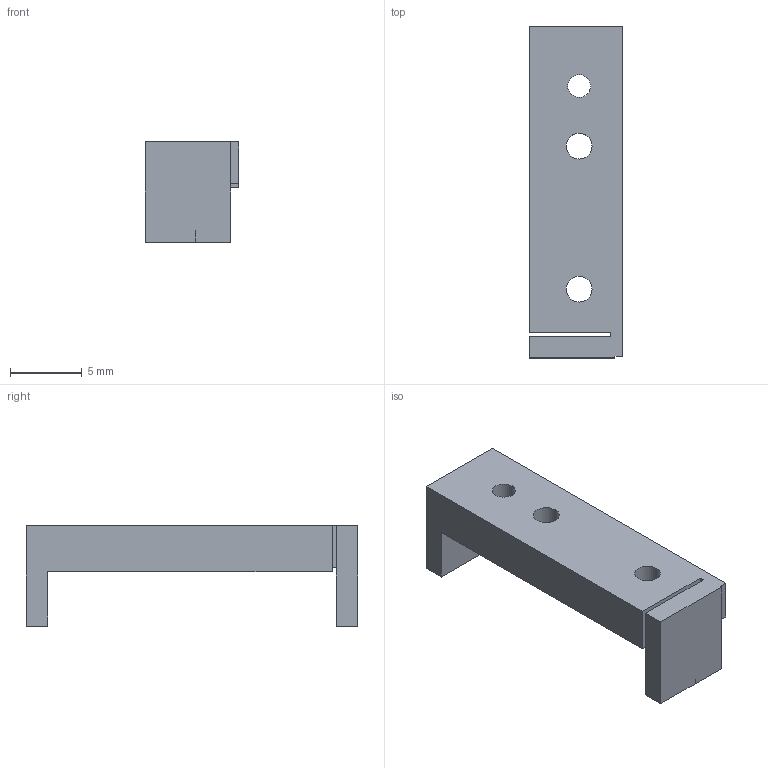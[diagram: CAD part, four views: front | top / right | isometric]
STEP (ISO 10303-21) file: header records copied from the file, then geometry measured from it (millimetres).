
FILE_DESCRIPTION(('Open CASCADE Model'),'2;1');
FILE_NAME('Open CASCADE Shape Model','2026-09-06T11:45:44',('Author'),( 'Open CASCADE'),'Open CASCADE STEP processor 7.7','Open CASCADE 7.7' ,'Unknown');
FILE_SCHEMA(('AUTOMOTIVE_DESIGN { 1 0 10303 214 1 1 1 1 }'));
Length unit declared in the file: millimetre
Products named in the file (1): Open CASCADE STEP translator 7.7 3
Bounding box: 6.55 x 23.2 x 7 mm (x, y, z)
Volume: 495.7 mm3; surface area: 692.4 mm2
Topology: 1 solids, 1 shells, 26 faces, 66 edges, 44 vertices
Faces by surface type: plane 20, cylinder 6
Full cylindrical faces by diameter (mm): 1.6 x1, 1.8 x2, 3.6 x2
Entity records: 1684 total; most frequent: CARTESIAN_POINT 319, DIRECTION 254, LINE 172, VECTOR 172, ORIENTED_EDGE 132, PCURVE 132, DEFINITIONAL_REPRESENTATION 132, EDGE_CURVE 66
